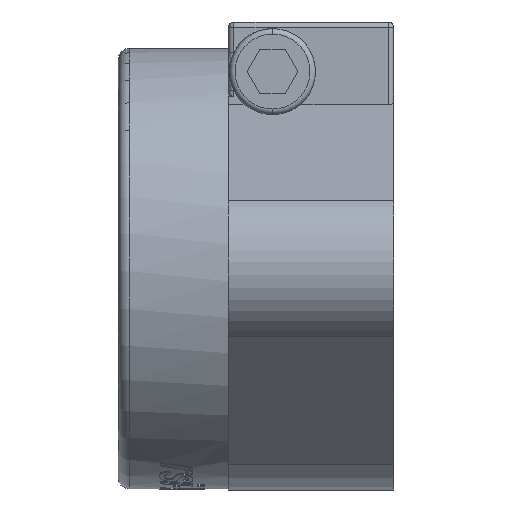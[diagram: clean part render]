
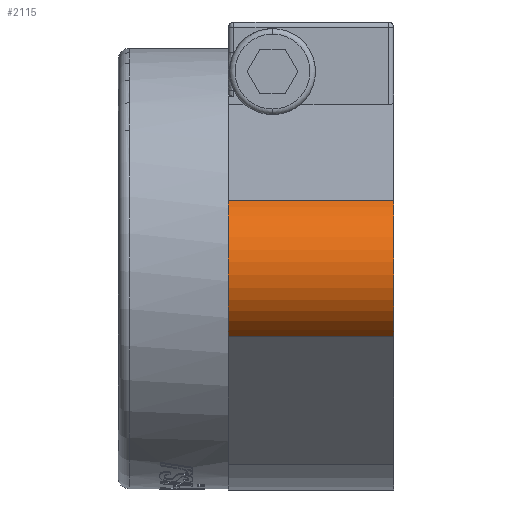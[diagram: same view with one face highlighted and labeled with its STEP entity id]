
A CAD part, left-side view. The second image highlights one B-rep face of the part: STEP entity #2115.
In plain terms, the highlighted cylindrical face has radius 7 mm (diameter 14 mm), a partial arc.
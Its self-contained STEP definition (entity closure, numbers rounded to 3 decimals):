
#693 = CARTESIAN_POINT ( 'NONE',  ( -28., 15., 0. ) ) ;
#791 = CARTESIAN_POINT ( 'NONE',  ( -31.275, 15., -6.187 ) ) ;
#923 = DIRECTION ( 'NONE',  ( 0., 1., 0. ) ) ;
#1133 = VERTEX_POINT ( 'NONE', #12481 ) ;
#1717 = FACE_OUTER_BOUND ( 'NONE', #10000, .T. ) ;
#2115 = ADVANCED_FACE ( 'NONE', ( #1717 ), #12298, .T. ) ;
#2411 = AXIS2_PLACEMENT_3D ( 'NONE', #7268, #923, #8332 ) ;
#2816 = VERTEX_POINT ( 'NONE', #4017 ) ;
#3917 = CIRCLE ( 'NONE', #2411, 7. ) ;
#4017 = CARTESIAN_POINT ( 'NONE',  ( -31.275, 0., -6.187 ) ) ;
#4057 = VERTEX_POINT ( 'NONE', #7869 ) ;
#4178 = AXIS2_PLACEMENT_3D ( 'NONE', #5542, #12974, #6621 ) ;
#5386 = CARTESIAN_POINT ( 'NONE',  ( -31.275, 15., -6.187 ) ) ;
#5542 = CARTESIAN_POINT ( 'NONE',  ( -28., 15., 0. ) ) ;
#5596 = AXIS2_PLACEMENT_3D ( 'NONE', #693, #8105, #7041 ) ;
#5673 = EDGE_CURVE ( 'NONE', #2816, #1133, #3917, .T. ) ;
#6112 = VERTEX_POINT ( 'NONE', #5386 ) ;
#6255 = CIRCLE ( 'NONE', #4178, 7. ) ;
#6621 = DIRECTION ( 'NONE',  ( 0., 0., 1. ) ) ;
#6990 = EDGE_CURVE ( 'NONE', #6112, #4057, #6255, .T. ) ;
#7041 = DIRECTION ( 'NONE',  ( 0., 0., -1. ) ) ;
#7268 = CARTESIAN_POINT ( 'NONE',  ( -28., 0., 0. ) ) ;
#7285 = EDGE_CURVE ( 'NONE', #4057, #1133, #13378, .T. ) ;
#7760 = VECTOR ( 'NONE', #12637, 1000. ) ;
#7869 = CARTESIAN_POINT ( 'NONE',  ( -31.275, 15., 6.187 ) ) ;
#8105 = DIRECTION ( 'NONE',  ( 0., -1., 0. ) ) ;
#8151 = DIRECTION ( 'NONE',  ( 0., -1., 0. ) ) ;
#8238 = CARTESIAN_POINT ( 'NONE',  ( -31.275, 15., 6.187 ) ) ;
#8332 = DIRECTION ( 'NONE',  ( 0., 0., 1. ) ) ;
#8580 = VECTOR ( 'NONE', #8151, 1000. ) ;
#9396 = LINE ( 'NONE', #791, #8580 ) ;
#9839 = ORIENTED_EDGE ( 'NONE', *, *, #6990, .F. ) ;
#10000 = EDGE_LOOP ( 'NONE', ( #12928, #11359, #9839, #12230 ) ) ;
#11359 = ORIENTED_EDGE ( 'NONE', *, *, #7285, .F. ) ;
#12230 = ORIENTED_EDGE ( 'NONE', *, *, #12525, .T. ) ;
#12298 = CYLINDRICAL_SURFACE ( 'NONE', #5596, 7. ) ;
#12481 = CARTESIAN_POINT ( 'NONE',  ( -31.275, 0., 6.187 ) ) ;
#12525 = EDGE_CURVE ( 'NONE', #6112, #2816, #9396, .T. ) ;
#12637 = DIRECTION ( 'NONE',  ( 0., -1., 0. ) ) ;
#12928 = ORIENTED_EDGE ( 'NONE', *, *, #5673, .T. ) ;
#12974 = DIRECTION ( 'NONE',  ( 0., 1., 0. ) ) ;
#13378 = LINE ( 'NONE', #8238, #7760 ) ;
